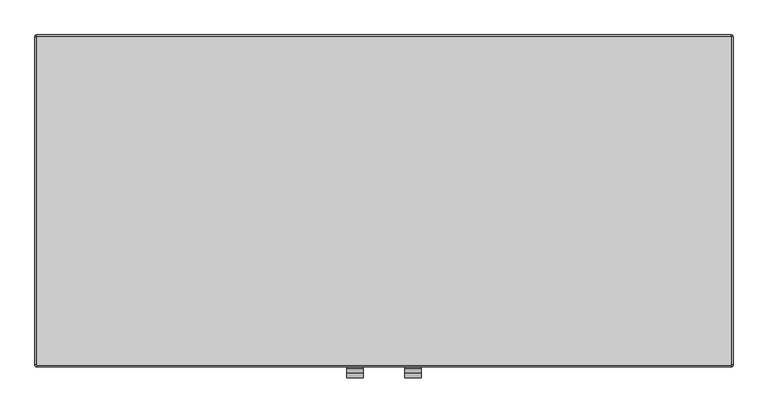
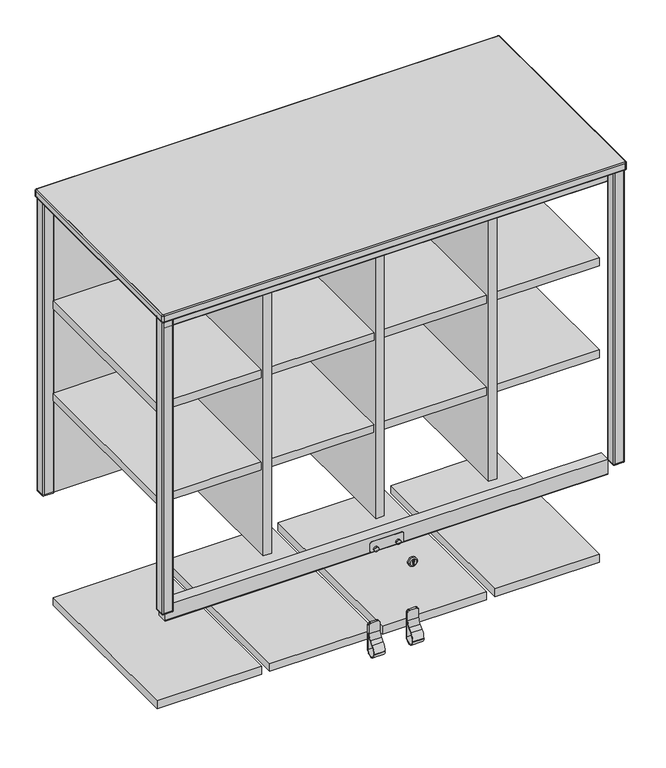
"""IFC4 building model written with IfcOpenShell, lengths in millimetres: furniture geometry, SmithSystem_AM_Storage_Education_Constellate_Stacking_DoubleMidCluster : Upper Cubbies + Lower Cubbies."""

from ifc_helpers import new_model, si_unit, point, frame, frame_2d, origin, place, context, project, spatial, polyline, circle_curve, ellipse_curve, trimmed, segment, composite_curve, outline, extrude, source, transform, mapped, element, save
from ifc_brep_helpers import plane_surface, cylinder_surface, revolved_surface, advanced_brep


def furniture_f3f6e3e6(model_context):
    return source(origin(), model_context, "Body", "SolidModel", [
        extrude(outline(polyline([(-9.525, -187.96), (-249.2375, -187.96), (-249.2375, 226.06), (-9.525, 226.06), (-9.525, -187.96)])), frame((0.0, 0.0, 1240.79), z_axis=(0.0, 0.0, 1.0), x_axis=(1.0, 0.0, 0.0)), (0.0, 0.0, 1.0), 19.05),
        extrude(outline(polyline([(249.2375, -187.96), (9.525, -187.96), (9.525, 226.06), (249.2375, 226.06), (249.2375, -187.96)])), frame((0.0, 0.0, 1240.79), z_axis=(0.0, 0.0, 1.0), x_axis=(1.0, 0.0, 0.0)), (0.0, 0.0, 1.0), 19.05),
        extrude(outline(polyline([(508.0, -187.96), (268.2875, -187.96), (268.2875, 226.06), (508.0, 226.06), (508.0, -187.96)])), frame((0.0, 0.0, 1240.79), z_axis=(0.0, 0.0, 1.0), x_axis=(1.0, 0.0, 0.0)), (0.0, 0.0, 1.0), 19.05),
        extrude(outline(polyline([(-268.2875, -187.96), (-508.0, -187.96), (-508.0, 226.06), (-268.2875, 226.06), (-268.2875, -187.96)])), frame((0.0, 0.0, 1240.79), z_axis=(0.0, 0.0, 1.0), x_axis=(1.0, 0.0, 0.0)), (0.0, 0.0, 1.0), 19.05),
        extrude(outline(composite_curve([segment(trimmed(circle_curve(frame_2d((-218.44, 1466.85)), 2.54), [point((-218.44, 1464.31))], [point((-220.98, 1466.85))], False, "CARTESIAN"), True, "CONTINUOUS"), segment(polyline([(-220.98, 1466.85), (-220.98, 1504.95), (-195.58, 1504.95), (-195.58, 1466.85)]), True, "CONTINUOUS"), segment(trimmed(circle_curve(frame_2d((-198.12, 1466.85)), 2.54), [point((-195.58, 1466.85))], [point((-198.12, 1464.31))], False, "CARTESIAN"), True, "CONTINUOUS"), segment(polyline([(-198.12, 1464.31), (-218.44, 1464.31)]), True, "CONTINUOUS")], self_intersect=False)), frame((-508.0, 0.0, 0.0), z_axis=(1.0, 0.0, 0.0), x_axis=(0.0, 1.0, 0.0)), (0.0, 0.0, 1.0), 1016.0),
        extrude(outline(composite_curve([segment(polyline([(-220.98, 791.21), (-195.58, 791.21), (-195.58, 755.65)]), True, "CONTINUOUS"), segment(trimmed(circle_curve(frame_2d((-198.12, 755.65)), 2.54), [point((-195.58, 755.65))], [point((-198.12, 753.11))], False, "CARTESIAN"), True, "CONTINUOUS"), segment(polyline([(-198.12, 753.11), (-218.44, 753.11)]), True, "CONTINUOUS"), segment(trimmed(circle_curve(frame_2d((-218.44, 755.65)), 2.54), [point((-218.44, 753.11))], [point((-220.98, 755.65))], False, "CARTESIAN"), True, "CONTINUOUS"), segment(polyline([(-220.98, 755.65), (-220.98, 791.21)]), True, "CONTINUOUS")], self_intersect=False)), frame((-508.0, 0.0, 0.0), z_axis=(1.0, 0.0, 0.0), x_axis=(0.0, 1.0, 0.0)), (0.0, 0.0, 1.0), 1016.0),
        extrude(outline(polyline([(-9.525, -187.96), (-249.2375, -187.96), (-249.2375, 226.06), (-9.525, 226.06), (-9.525, -187.96)])), frame((0.0, 0.0, 521.1191), z_axis=(0.0, 0.0, 1.0), x_axis=(1.0, 0.0, 0.0)), (0.0, 0.0, 1.0), 19.05),
        extrude(outline(polyline([(249.2375, -187.96), (9.525, -187.96), (9.525, 226.06), (249.2375, 226.06), (249.2375, -187.96)])), frame((0.0, 0.0, 521.1191), z_axis=(0.0, 0.0, 1.0), x_axis=(1.0, 0.0, 0.0)), (0.0, 0.0, 1.0), 19.05),
        extrude(outline(polyline([(508.0, -187.96), (268.2875, -187.96), (268.2875, 226.06), (508.0, 226.06), (508.0, -187.96)])), frame((0.0, 0.0, 521.1191), z_axis=(0.0, 0.0, 1.0), x_axis=(1.0, 0.0, 0.0)), (0.0, 0.0, 1.0), 19.05),
        extrude(outline(polyline([(-268.2875, -187.96), (-508.0, -187.96), (-508.0, 226.06), (-268.2875, 226.06), (-268.2875, -187.96)])), frame((0.0, 0.0, 521.1191), z_axis=(0.0, 0.0, 1.0), x_axis=(1.0, 0.0, 0.0)), (0.0, 0.0, 1.0), 19.05),
        extrude(outline(polyline([(-268.2875, -195.58), (-268.2875, 226.06), (-249.2375, 226.06), (-249.2375, -195.58), (-268.2875, -195.58)])), frame((0.0, 0.0, 812.8), z_axis=(0.0, 0.0, 1.0), x_axis=(1.0, 0.0, 0.0)), (0.0, 0.0, 1.0), 692.15),
        extrude(outline(polyline([(-9.525, -195.58), (-9.525, 226.06), (9.525, 226.06), (9.525, -195.58), (-9.525, -195.58)])), frame((0.0, 0.0, 812.8), z_axis=(0.0, 0.0, 1.0), x_axis=(1.0, 0.0, 0.0)), (0.0, 0.0, 1.0), 692.15),
        extrude(outline(polyline([(249.2375, -195.58), (249.2375, 226.06), (268.2875, 226.06), (268.2875, -195.58), (249.2375, -195.58)])), frame((0.0, 0.0, 812.8), z_axis=(0.0, 0.0, 1.0), x_axis=(1.0, 0.0, 0.0)), (0.0, 0.0, 1.0), 692.15),
        extrude(outline(polyline([(-9.525, -187.96), (-249.2375, -187.96), (-249.2375, 226.06), (-9.525, 226.06), (-9.525, -187.96)])), frame((0.0, 0.0, 1017.27), z_axis=(0.0, 0.0, 1.0), x_axis=(1.0, 0.0, 0.0)), (0.0, 0.0, 1.0), 19.05),
        extrude(outline(polyline([(249.2375, -187.96), (9.525, -187.96), (9.525, 226.06), (249.2375, 226.06), (249.2375, -187.96)])), frame((0.0, 0.0, 1017.27), z_axis=(0.0, 0.0, 1.0), x_axis=(1.0, 0.0, 0.0)), (0.0, 0.0, 1.0), 19.05),
        extrude(outline(polyline([(508.0, -187.96), (268.2875, -187.96), (268.2875, 226.06), (508.0, 226.06), (508.0, -187.96)])), frame((0.0, 0.0, 1017.27), z_axis=(0.0, 0.0, 1.0), x_axis=(1.0, 0.0, 0.0)), (0.0, 0.0, 1.0), 19.05),
        extrude(outline(polyline([(-268.2875, -187.96), (-508.0, -187.96), (-508.0, 226.06), (-268.2875, 226.06), (-268.2875, -187.96)])), frame((0.0, 0.0, 1017.27), z_axis=(0.0, 0.0, 1.0), x_axis=(1.0, 0.0, 0.0)), (0.0, 0.0, 1.0), 19.05),
        extrude(outline(polyline([(-505.46, 228.6), (-505.46, 247.65), (505.46, 247.65), (505.46, 228.6), (-505.46, 228.6)])), frame((0.0, 0.0, 793.75), z_axis=(0.0, 0.0, 1.0), x_axis=(1.0, 0.0, 0.0)), (0.0, 0.0, 1.0), 711.2),
        extrude(outline(composite_curve([segment(polyline([(-528.32, -223.52), (-508.0, -223.52)]), True, "CONTINUOUS"), segment(trimmed(circle_curve(frame_2d((-508.0, -226.06)), 2.54), [point((-508.0, -223.52))], [point((-505.46, -226.06))], False, "CARTESIAN"), True, "CONTINUOUS"), segment(polyline([(-505.46, -226.06), (-505.46, -246.38)]), True, "CONTINUOUS"), segment(trimmed(circle_curve(frame_2d((-508.0, -246.38)), 2.54), [point((-505.46, -246.38))], [point((-508.0, -248.92))], False, "CARTESIAN"), True, "CONTINUOUS"), segment(polyline([(-508.0, -248.92), (-528.32, -248.92)]), True, "CONTINUOUS"), segment(trimmed(circle_curve(frame_2d((-528.32, -246.38)), 2.54), [point((-528.32, -248.92))], [point((-530.86, -246.38))], False, "CARTESIAN"), True, "CONTINUOUS"), segment(polyline([(-530.86, -246.38), (-530.86, -226.06)]), True, "CONTINUOUS"), segment(trimmed(circle_curve(frame_2d((-528.32, -226.06)), 2.54), [point((-530.86, -226.06))], [point((-528.32, -223.52))], False, "CARTESIAN"), True, "CONTINUOUS")], self_intersect=False)), frame((0.0, 0.0, 796.29), z_axis=(0.0, 0.0, 1.0), x_axis=(1.0, 0.0, 0.0)), (0.0, 0.0, 1.0), 708.66),
        extrude(outline(composite_curve([segment(polyline([(530.86, 248.92), (530.86, 228.6)]), True, "CONTINUOUS"), segment(trimmed(circle_curve(frame_2d((528.32, 228.6)), 2.54), [point((530.86, 228.6))], [point((528.32, 226.06))], False, "CARTESIAN"), True, "CONTINUOUS"), segment(polyline([(528.32, 226.06), (508.0, 226.06)]), True, "CONTINUOUS"), segment(trimmed(circle_curve(frame_2d((508.0, 228.6)), 2.54), [point((508.0, 226.06))], [point((505.46, 228.6))], False, "CARTESIAN"), True, "CONTINUOUS"), segment(polyline([(505.46, 228.6), (505.46, 248.92)]), True, "CONTINUOUS"), segment(trimmed(circle_curve(frame_2d((508.0, 248.92)), 2.54), [point((505.46, 248.92))], [point((508.0, 251.46))], False, "CARTESIAN"), True, "CONTINUOUS"), segment(polyline([(508.0, 251.46), (528.32, 251.46)]), True, "CONTINUOUS"), segment(trimmed(circle_curve(frame_2d((528.32, 248.92)), 2.54), [point((528.32, 251.46))], [point((530.86, 248.92))], False, "CARTESIAN"), True, "CONTINUOUS")], self_intersect=False)), frame((0.0, 0.0, 796.29), z_axis=(0.0, 0.0, 1.0), x_axis=(1.0, 0.0, 0.0)), (0.0, 0.0, 1.0), 708.66),
        extrude(outline(composite_curve([segment(trimmed(circle_curve(frame_2d((528.32, -226.06)), 2.54), [point((528.32, -223.52))], [point((530.86, -226.06))], False, "CARTESIAN"), True, "CONTINUOUS"), segment(polyline([(530.86, -226.06), (530.86, -246.38)]), True, "CONTINUOUS"), segment(trimmed(circle_curve(frame_2d((528.32, -246.38)), 2.54), [point((530.86, -246.38))], [point((528.32, -248.92))], False, "CARTESIAN"), True, "CONTINUOUS"), segment(polyline([(528.32, -248.92), (508.0, -248.92)]), True, "CONTINUOUS"), segment(trimmed(circle_curve(frame_2d((508.0, -246.38)), 2.54), [point((508.0, -248.92))], [point((505.46, -246.38))], False, "CARTESIAN"), True, "CONTINUOUS"), segment(polyline([(505.46, -246.38), (505.46, -226.06)]), True, "CONTINUOUS"), segment(trimmed(circle_curve(frame_2d((508.0, -226.06)), 2.54), [point((505.46, -226.06))], [point((508.0, -223.52))], False, "CARTESIAN"), True, "CONTINUOUS"), segment(polyline([(508.0, -223.52), (528.32, -223.52)]), True, "CONTINUOUS")], self_intersect=False)), frame((0.0, 0.0, 796.29), z_axis=(0.0, 0.0, 1.0), x_axis=(1.0, 0.0, 0.0)), (0.0, 0.0, 1.0), 708.66),
        extrude(outline(composite_curve([segment(trimmed(circle_curve(frame_2d((-528.32, 248.92)), 2.54), [point((-530.86, 248.92))], [point((-528.32, 251.46))], False, "CARTESIAN"), True, "CONTINUOUS"), segment(polyline([(-528.32, 251.46), (-508.0, 251.46)]), True, "CONTINUOUS"), segment(trimmed(circle_curve(frame_2d((-508.0, 248.92)), 2.54), [point((-508.0, 251.46))], [point((-505.46, 248.92))], False, "CARTESIAN"), True, "CONTINUOUS"), segment(polyline([(-505.46, 248.92), (-505.46, 228.6)]), True, "CONTINUOUS"), segment(trimmed(circle_curve(frame_2d((-508.0, 228.6)), 2.54), [point((-505.46, 228.6))], [point((-508.0, 226.06))], False, "CARTESIAN"), True, "CONTINUOUS"), segment(polyline([(-508.0, 226.06), (-528.32, 226.06)]), True, "CONTINUOUS"), segment(trimmed(circle_curve(frame_2d((-528.32, 228.6)), 2.54), [point((-528.32, 226.06))], [point((-530.86, 228.6))], False, "CARTESIAN"), True, "CONTINUOUS"), segment(polyline([(-530.86, 228.6), (-530.86, 248.92)]), True, "CONTINUOUS")], self_intersect=False)), frame((0.0, 0.0, 796.29), z_axis=(0.0, 0.0, 1.0), x_axis=(1.0, 0.0, 0.0)), (0.0, 0.0, 1.0), 708.66),
        extrude(outline(composite_curve([segment(polyline([(-528.32, -223.52), (-508.0, -223.52)]), True, "CONTINUOUS"), segment(trimmed(circle_curve(frame_2d((-508.0, -226.06)), 2.54), [point((-508.0, -223.52))], [point((-505.46, -226.06))], False, "CARTESIAN"), True, "CONTINUOUS"), segment(polyline([(-505.46, -226.06), (-505.46, -246.38)]), True, "CONTINUOUS"), segment(trimmed(circle_curve(frame_2d((-508.0, -246.38)), 2.54), [point((-505.46, -246.38))], [point((-508.0, -248.92))], False, "CARTESIAN"), True, "CONTINUOUS"), segment(polyline([(-508.0, -248.92), (-528.32, -248.92)]), True, "CONTINUOUS"), segment(trimmed(circle_curve(frame_2d((-528.32, -246.38)), 2.54), [point((-528.32, -248.92))], [point((-530.86, -246.38))], False, "CARTESIAN"), True, "CONTINUOUS"), segment(polyline([(-530.86, -246.38), (-530.86, -226.06)]), True, "CONTINUOUS"), segment(trimmed(circle_curve(frame_2d((-528.32, -226.06)), 2.54), [point((-530.86, -226.06))], [point((-528.32, -223.52))], False, "CARTESIAN"), True, "CONTINUOUS")], self_intersect=False)), frame((0.0, 0.0, 793.75), z_axis=(0.0, 0.0, 1.0), x_axis=(1.0, 0.0, 0.0)), (0.0, 0.0, 1.0), 2.54),
        extrude(outline(composite_curve([segment(polyline([(530.86, 248.92), (530.86, 228.6)]), True, "CONTINUOUS"), segment(trimmed(circle_curve(frame_2d((528.32, 228.6)), 2.54), [point((530.86, 228.6))], [point((528.32, 226.06))], False, "CARTESIAN"), True, "CONTINUOUS"), segment(polyline([(528.32, 226.06), (508.0, 226.06)]), True, "CONTINUOUS"), segment(trimmed(circle_curve(frame_2d((508.0, 228.6)), 2.54), [point((508.0, 226.06))], [point((505.46, 228.6))], False, "CARTESIAN"), True, "CONTINUOUS"), segment(polyline([(505.46, 228.6), (505.46, 248.92)]), True, "CONTINUOUS"), segment(trimmed(circle_curve(frame_2d((508.0, 248.92)), 2.54), [point((505.46, 248.92))], [point((508.0, 251.46))], False, "CARTESIAN"), True, "CONTINUOUS"), segment(polyline([(508.0, 251.46), (528.32, 251.46)]), True, "CONTINUOUS"), segment(trimmed(circle_curve(frame_2d((528.32, 248.92)), 2.54), [point((528.32, 251.46))], [point((530.86, 248.92))], False, "CARTESIAN"), True, "CONTINUOUS")], self_intersect=False)), frame((0.0, 0.0, 793.75), z_axis=(0.0, 0.0, 1.0), x_axis=(1.0, 0.0, 0.0)), (0.0, 0.0, 1.0), 2.54),
        extrude(outline(composite_curve([segment(trimmed(circle_curve(frame_2d((528.32, -226.06)), 2.54), [point((528.32, -223.52))], [point((530.86, -226.06))], False, "CARTESIAN"), True, "CONTINUOUS"), segment(polyline([(530.86, -226.06), (530.86, -246.38)]), True, "CONTINUOUS"), segment(trimmed(circle_curve(frame_2d((528.32, -246.38)), 2.54), [point((530.86, -246.38))], [point((528.32, -248.92))], False, "CARTESIAN"), True, "CONTINUOUS"), segment(polyline([(528.32, -248.92), (508.0, -248.92)]), True, "CONTINUOUS"), segment(trimmed(circle_curve(frame_2d((508.0, -246.38)), 2.54), [point((508.0, -248.92))], [point((505.46, -246.38))], False, "CARTESIAN"), True, "CONTINUOUS"), segment(polyline([(505.46, -246.38), (505.46, -226.06)]), True, "CONTINUOUS"), segment(trimmed(circle_curve(frame_2d((508.0, -226.06)), 2.54), [point((505.46, -226.06))], [point((508.0, -223.52))], False, "CARTESIAN"), True, "CONTINUOUS"), segment(polyline([(508.0, -223.52), (528.32, -223.52)]), True, "CONTINUOUS")], self_intersect=False)), frame((0.0, 0.0, 793.75), z_axis=(0.0, 0.0, 1.0), x_axis=(1.0, 0.0, 0.0)), (0.0, 0.0, 1.0), 2.54),
        extrude(outline(composite_curve([segment(trimmed(circle_curve(frame_2d((-528.32, 248.92)), 2.54), [point((-530.86, 248.92))], [point((-528.32, 251.46))], False, "CARTESIAN"), True, "CONTINUOUS"), segment(polyline([(-528.32, 251.46), (-508.0, 251.46)]), True, "CONTINUOUS"), segment(trimmed(circle_curve(frame_2d((-508.0, 248.92)), 2.54), [point((-508.0, 251.46))], [point((-505.46, 248.92))], False, "CARTESIAN"), True, "CONTINUOUS"), segment(polyline([(-505.46, 248.92), (-505.46, 228.6)]), True, "CONTINUOUS"), segment(trimmed(circle_curve(frame_2d((-508.0, 228.6)), 2.54), [point((-505.46, 228.6))], [point((-508.0, 226.06))], False, "CARTESIAN"), True, "CONTINUOUS"), segment(polyline([(-508.0, 226.06), (-528.32, 226.06)]), True, "CONTINUOUS"), segment(trimmed(circle_curve(frame_2d((-528.32, 228.6)), 2.54), [point((-528.32, 226.06))], [point((-530.86, 228.6))], False, "CARTESIAN"), True, "CONTINUOUS"), segment(polyline([(-530.86, 228.6), (-530.86, 248.92)]), True, "CONTINUOUS")], self_intersect=False)), frame((0.0, 0.0, 793.75), z_axis=(0.0, 0.0, 1.0), x_axis=(1.0, 0.0, 0.0)), (0.0, 0.0, 1.0), 2.54),
        extrude(outline(composite_curve([segment(polyline([(-530.86, -250.952), (-530.86, 250.952)]), True, "CONTINUOUS"), segment(trimmed(circle_curve(frame_2d((-530.352, 250.952)), 0.508), [point((-530.86, 250.952))], [point((-530.352, 251.46))], False, "CARTESIAN"), True, "CONTINUOUS"), segment(polyline([(-530.352, 251.46), (530.352, 251.46)]), True, "CONTINUOUS"), segment(trimmed(circle_curve(frame_2d((530.352, 250.952)), 0.508), [point((530.352, 251.46))], [point((530.86, 250.952))], False, "CARTESIAN"), True, "CONTINUOUS"), segment(polyline([(530.86, 250.952), (530.86, -250.952)]), True, "CONTINUOUS"), segment(trimmed(circle_curve(frame_2d((530.352, -250.952)), 0.508), [point((530.86, -250.952))], [point((530.352, -251.46))], False, "CARTESIAN"), True, "CONTINUOUS"), segment(polyline([(530.352, -251.46), (-530.352, -251.46)]), True, "CONTINUOUS"), segment(trimmed(circle_curve(frame_2d((-530.352, -250.952)), 0.508), [point((-530.352, -251.46))], [point((-530.86, -250.952))], False, "CARTESIAN"), True, "CONTINUOUS")], self_intersect=False)), frame((0.0, 0.0, 1504.95), z_axis=(0.0, 0.0, 1.0), x_axis=(1.0, 0.0, 0.0)), (0.0, 0.0, 1.0), 19.05),
        advanced_brep(
        [(-530.352, -251.46, 1524.0), (-530.86, -250.952, 1524.0), (-533.4, -250.952, 1521.46), (-530.352, -254.0, 1521.46), (-530.352, -251.46, 1504.95), (-530.86, -250.952, 1504.95), (-530.352, -254.0, 1507.49), (-533.4, -250.952, 1507.49), (530.352, -254.0, 1521.46), (530.352, -251.46, 1524.0), (530.352, -251.46, 1504.95), (530.352, -254.0, 1507.49), (530.86, -250.952, 1524.0), (533.4, -250.952, 1521.46), (530.86, -250.952, 1504.95), (533.4, -250.952, 1507.49), (533.4, 250.952, 1521.46), (530.86, 250.952, 1524.0), (530.86, 250.952, 1504.95), (533.4, 250.952, 1507.49), (530.352, 251.46, 1524.0), (530.352, 254.0, 1521.46), (530.352, 251.46, 1504.95), (530.352, 254.0, 1507.49), (-530.352, 254.0, 1521.46), (-530.352, 251.46, 1524.0), (-530.352, 251.46, 1504.95), (-530.352, 254.0, 1507.49), (-530.86, 250.952, 1524.0), (-533.4, 250.952, 1521.46), (-530.86, 250.952, 1504.95), (-533.4, 250.952, 1507.49)],
        [
            (0, 1, circle_curve(frame((-530.352, -250.952, 1524.0), z_axis=(0.0, 0.0, -1.0), x_axis=(-1.0, 0.0, 0.0)), 0.508)),
            (1, 2, circle_curve(frame((-530.86, -250.952, 1521.46), z_axis=(0.0, -1.0, 0.0), x_axis=(1.0, 0.0, 0.0)), 2.54)),
            (2, 3, circle_curve(frame((-530.352, -250.952, 1521.46), z_axis=(0.0, 0.0, 1.0), x_axis=(-1.0, 0.0, 0.0)), 3.048)),
            (3, 0, circle_curve(frame((-530.352, -251.46, 1521.46), z_axis=(-1.0, 0.0, 0.0), x_axis=(0.0, 1.0, 0.0)), 2.54)),
            (4, 5, circle_curve(frame((-530.352, -250.952, 1504.95), z_axis=(0.0, 0.0, -1.0), x_axis=(-1.0, 0.0, 0.0)), 0.508)),
            (5, 1),
            (0, 4),
            (6, 7, circle_curve(frame((-530.352, -250.952, 1507.49), z_axis=(0.0, 0.0, -1.0), x_axis=(-1.0, 0.0, 0.0)), 3.048)),
            (7, 5, circle_curve(frame((-530.86, -250.952, 1507.49), z_axis=(0.0, -1.0, 0.0), x_axis=(1.0, 0.0, 0.0)), 2.54)),
            (4, 6, circle_curve(frame((-530.352, -251.46, 1507.49), z_axis=(-1.0, 0.0, 0.0), x_axis=(0.0, 1.0, 0.0)), 2.54)),
            (2, 7),
            (6, 3),
            (3, 8),
            (8, 9, circle_curve(frame((530.352, -251.46, 1521.46), z_axis=(-1.0, 0.0, 0.0), x_axis=(0.0, 1.0, 0.0)), 2.54)),
            (9, 0),
            (9, 10),
            (10, 4),
            (10, 11, circle_curve(frame((530.352, -251.46, 1507.49), z_axis=(-1.0, 0.0, 0.0), x_axis=(0.0, 1.0, 0.0)), 2.54)),
            (11, 6),
            (11, 8),
            (12, 9, circle_curve(frame((530.352, -250.952, 1524.0), z_axis=(0.0, 0.0, -1.0), x_axis=(0.0, -1.0, 0.0)), 0.508)),
            (8, 13, circle_curve(frame((530.352, -250.952, 1521.46), z_axis=(0.0, 0.0, 1.0), x_axis=(0.0, -1.0, 0.0)), 3.048)),
            (13, 12, circle_curve(frame((530.86, -250.952, 1521.46), z_axis=(0.0, -1.0, 0.0), x_axis=(-1.0, 0.0, 0.0)), 2.54)),
            (14, 10, circle_curve(frame((530.352, -250.952, 1504.95), z_axis=(0.0, 0.0, -1.0), x_axis=(0.0, -1.0, 0.0)), 0.508)),
            (12, 14),
            (15, 11, circle_curve(frame((530.352, -250.952, 1507.49), z_axis=(0.0, 0.0, -1.0), x_axis=(0.0, -1.0, 0.0)), 3.048)),
            (14, 15, circle_curve(frame((530.86, -250.952, 1507.49), z_axis=(0.0, -1.0, 0.0), x_axis=(-1.0, 0.0, 0.0)), 2.54)),
            (15, 13),
            (13, 16),
            (16, 17, circle_curve(frame((530.86, 250.952, 1521.46), z_axis=(0.0, -1.0, 0.0), x_axis=(-1.0, 0.0, 0.0)), 2.54)),
            (17, 12),
            (17, 18),
            (18, 14),
            (18, 19, circle_curve(frame((530.86, 250.952, 1507.49), z_axis=(0.0, -1.0, 0.0), x_axis=(-1.0, 0.0, 0.0)), 2.54)),
            (19, 15),
            (19, 16),
            (20, 17, circle_curve(frame((530.352, 250.952, 1524.0), z_axis=(0.0, 0.0, -1.0), x_axis=(1.0, 0.0, 0.0)), 0.508)),
            (16, 21, circle_curve(frame((530.352, 250.952, 1521.46), z_axis=(0.0, 0.0, 1.0), x_axis=(1.0, 0.0, 0.0)), 3.048)),
            (21, 20, circle_curve(frame((530.352, 251.46, 1521.46), z_axis=(1.0, 0.0, 0.0), x_axis=(0.0, -1.0, 0.0)), 2.54)),
            (22, 18, circle_curve(frame((530.352, 250.952, 1504.95), z_axis=(0.0, 0.0, -1.0), x_axis=(1.0, 0.0, 0.0)), 0.508)),
            (20, 22),
            (23, 19, circle_curve(frame((530.352, 250.952, 1507.49), z_axis=(0.0, 0.0, -1.0), x_axis=(1.0, 0.0, 0.0)), 3.048)),
            (22, 23, circle_curve(frame((530.352, 251.46, 1507.49), z_axis=(1.0, 0.0, 0.0), x_axis=(0.0, -1.0, 0.0)), 2.54)),
            (23, 21),
            (21, 24),
            (24, 25, circle_curve(frame((-530.352, 251.46, 1521.46), z_axis=(1.0, 0.0, 0.0), x_axis=(0.0, -1.0, 0.0)), 2.54)),
            (25, 20),
            (25, 26),
            (26, 22),
            (26, 27, circle_curve(frame((-530.352, 251.46, 1507.49), z_axis=(1.0, 0.0, 0.0), x_axis=(0.0, -1.0, 0.0)), 2.54)),
            (27, 23),
            (27, 24),
            (28, 25, circle_curve(frame((-530.352, 250.952, 1524.0), z_axis=(0.0, 0.0, -1.0), x_axis=(0.0, 1.0, 0.0)), 0.508)),
            (24, 29, circle_curve(frame((-530.352, 250.952, 1521.46), z_axis=(0.0, 0.0, 1.0), x_axis=(0.0, 1.0, 0.0)), 3.048)),
            (29, 28, circle_curve(frame((-530.86, 250.952, 1521.46), z_axis=(0.0, 1.0, 0.0), x_axis=(1.0, 0.0, 0.0)), 2.54)),
            (30, 26, circle_curve(frame((-530.352, 250.952, 1504.95), z_axis=(0.0, 0.0, -1.0), x_axis=(0.0, 1.0, 0.0)), 0.508)),
            (28, 30),
            (31, 27, circle_curve(frame((-530.352, 250.952, 1507.49), z_axis=(0.0, 0.0, -1.0), x_axis=(0.0, 1.0, 0.0)), 3.048)),
            (30, 31, circle_curve(frame((-530.86, 250.952, 1507.49), z_axis=(0.0, 1.0, 0.0), x_axis=(1.0, 0.0, 0.0)), 2.54)),
            (31, 29),
            (29, 2),
            (1, 28),
            (5, 30),
            (7, 31),
        ],
        [
            revolved_surface(trimmed(ellipse_curve(frame((-530.86, -250.952, 1521.46), z_axis=(0.0, 1.0, 0.0), x_axis=(1.0, 0.0, 0.0)), 2.54, 2.54), [point((-533.4, -250.952, 1521.46))], [point((-530.86, -250.952, 1524.0))], True, "CARTESIAN"), (-530.352, -250.952, 0.0), (0.0, 0.0, 1.0)),
            revolved_surface(polyline([(-530.86, -250.952, 1524.0), (-530.86, -250.952, 1504.95)]), (-530.352, -250.952, 0.0), (0.0, 0.0, 1.0)),
            revolved_surface(trimmed(ellipse_curve(frame((-530.86, -250.952, 1507.49), z_axis=(0.0, 1.0, 0.0), x_axis=(1.0, 0.0, 0.0)), 2.54, 2.54), [point((-530.86, -250.952, 1504.95))], [point((-533.4, -250.952, 1507.49))], True, "CARTESIAN"), (-530.352, -250.952, 0.0), (0.0, 0.0, 1.0)),
            cylinder_surface(frame((-530.352, -250.952, 0.0), z_axis=(0.0, 0.0, 1.0), x_axis=(-1.0, 0.0, 0.0)), 3.048),
            cylinder_surface(frame((-530.352, -251.46, 1521.46), z_axis=(-1.0, 0.0, 0.0), x_axis=(0.0, 1.0, 0.0)), 2.54),
            plane_surface(frame((-530.352, -251.46, 1524.0), z_axis=(0.0, 1.0, 0.0), x_axis=(1.0, 0.0, 0.0))),
            cylinder_surface(frame((-530.352, -251.46, 1507.49), z_axis=(-1.0, 0.0, 0.0), x_axis=(0.0, 1.0, 0.0)), 2.54),
            plane_surface(frame((-530.352, -254.0, 1507.49), z_axis=(0.0, -1.0, 0.0), x_axis=(1.0, 0.0, 0.0))),
            revolved_surface(trimmed(ellipse_curve(frame((530.352, -251.46, 1521.46), z_axis=(-1.0, 0.0, 0.0), x_axis=(0.0, 1.0, 0.0)), 2.54, 2.54), [point((530.352, -254.0, 1521.46))], [point((530.352, -251.46, 1524.0))], True, "CARTESIAN"), (530.352, -250.952, 0.0), (0.0, 0.0, 1.0)),
            revolved_surface(polyline([(530.352, -251.46, 1524.0), (530.352, -251.46, 1504.95)]), (530.352, -250.952, 0.0), (0.0, 0.0, 1.0)),
            revolved_surface(trimmed(ellipse_curve(frame((530.352, -251.46, 1507.49), z_axis=(-1.0, 0.0, 0.0), x_axis=(0.0, 1.0, 0.0)), 2.54, 2.54), [point((530.352, -251.46, 1504.95))], [point((530.352, -254.0, 1507.49))], True, "CARTESIAN"), (530.352, -250.952, 0.0), (0.0, 0.0, 1.0)),
            cylinder_surface(frame((530.352, -250.952, 0.0), z_axis=(0.0, 0.0, 1.0), x_axis=(0.0, -1.0, 0.0)), 3.048),
            cylinder_surface(frame((530.86, -250.952, 1521.46), z_axis=(0.0, -1.0, 0.0), x_axis=(-1.0, 0.0, 0.0)), 2.54),
            plane_surface(frame((530.86, -250.952, 1524.0), z_axis=(-1.0, 0.0, 0.0), x_axis=(0.0, 1.0, 0.0))),
            cylinder_surface(frame((530.86, -250.952, 1507.49), z_axis=(0.0, -1.0, 0.0), x_axis=(-1.0, 0.0, 0.0)), 2.54),
            plane_surface(frame((533.4, -250.952, 1507.49), z_axis=(1.0, 0.0, 0.0), x_axis=(0.0, 1.0, 0.0))),
            revolved_surface(trimmed(ellipse_curve(frame((530.86, 250.952, 1521.46), z_axis=(0.0, -1.0, 0.0), x_axis=(-1.0, 0.0, 0.0)), 2.54, 2.54), [point((533.4, 250.952, 1521.46))], [point((530.86, 250.952, 1524.0))], True, "CARTESIAN"), (530.352, 250.952, 0.0), (0.0, 0.0, 1.0)),
            revolved_surface(polyline([(530.86, 250.952, 1524.0), (530.86, 250.952, 1504.95)]), (530.352, 250.952, 0.0), (0.0, 0.0, 1.0)),
            revolved_surface(trimmed(ellipse_curve(frame((530.86, 250.952, 1507.49), z_axis=(0.0, -1.0, 0.0), x_axis=(-1.0, 0.0, 0.0)), 2.54, 2.54), [point((530.86, 250.952, 1504.95))], [point((533.4, 250.952, 1507.49))], True, "CARTESIAN"), (530.352, 250.952, 0.0), (0.0, 0.0, 1.0)),
            cylinder_surface(frame((530.352, 250.952, 0.0), z_axis=(0.0, 0.0, 1.0), x_axis=(1.0, 0.0, 0.0)), 3.048),
            cylinder_surface(frame((530.352, 251.46, 1521.46), z_axis=(1.0, 0.0, 0.0), x_axis=(0.0, -1.0, 0.0)), 2.54),
            plane_surface(frame((530.352, 251.46, 1524.0), z_axis=(0.0, -1.0, 0.0), x_axis=(-1.0, 0.0, 0.0))),
            cylinder_surface(frame((530.352, 251.46, 1507.49), z_axis=(1.0, 0.0, 0.0), x_axis=(0.0, -1.0, 0.0)), 2.54),
            plane_surface(frame((530.352, 254.0, 1507.49), z_axis=(0.0, 1.0, 0.0), x_axis=(-1.0, 0.0, 0.0))),
            revolved_surface(trimmed(ellipse_curve(frame((-530.352, 251.46, 1521.46), z_axis=(1.0, 0.0, 0.0), x_axis=(0.0, -1.0, 0.0)), 2.54, 2.54), [point((-530.352, 254.0, 1521.46))], [point((-530.352, 251.46, 1524.0))], True, "CARTESIAN"), (-530.352, 250.952, 0.0), (0.0, 0.0, 1.0)),
            revolved_surface(polyline([(-530.352, 251.46, 1524.0), (-530.352, 251.46, 1504.95)]), (-530.352, 250.952, 0.0), (0.0, 0.0, 1.0)),
            revolved_surface(trimmed(ellipse_curve(frame((-530.352, 251.46, 1507.49), z_axis=(1.0, 0.0, 0.0), x_axis=(0.0, -1.0, 0.0)), 2.54, 2.54), [point((-530.352, 251.46, 1504.95))], [point((-530.352, 254.0, 1507.49))], True, "CARTESIAN"), (-530.352, 250.952, 0.0), (0.0, 0.0, 1.0)),
            cylinder_surface(frame((-530.352, 250.952, 0.0), z_axis=(0.0, 0.0, 1.0), x_axis=(0.0, 1.0, 0.0)), 3.048),
            cylinder_surface(frame((-530.86, 250.952, 1521.46), z_axis=(0.0, 1.0, 0.0), x_axis=(1.0, 0.0, 0.0)), 2.54),
            plane_surface(frame((-530.86, 250.952, 1524.0), z_axis=(1.0, 0.0, 0.0), x_axis=(0.0, -1.0, 0.0))),
            cylinder_surface(frame((-530.86, 250.952, 1507.49), z_axis=(0.0, 1.0, 0.0), x_axis=(1.0, 0.0, 0.0)), 2.54),
            plane_surface(frame((-533.4, 250.952, 1507.49), z_axis=(-1.0, 0.0, 0.0), x_axis=(0.0, -1.0, 0.0))),
        ],
        [
            (0, [[1, 2, 3, 4]]),
            (1, [[5, 6, -1, 7]]),
            (2, [[8, 9, -5, 10]]),
            (3, [[-3, 11, -8, 12]]),
            (4, [[-4, 13, 14, 15]]),
            (5, [[-7, -15, 16, 17]]),
            (6, [[-10, -17, 18, 19]]),
            (7, [[-12, -19, 20, -13]]),
            (8, [[21, -14, 22, 23]]),
            (9, [[24, -16, -21, 25]]),
            (10, [[26, -18, -24, 27]]),
            (11, [[-22, -20, -26, 28]]),
            (12, [[-23, 29, 30, 31]]),
            (13, [[-25, -31, 32, 33]]),
            (14, [[-27, -33, 34, 35]]),
            (15, [[-28, -35, 36, -29]]),
            (16, [[37, -30, 38, 39]]),
            (17, [[40, -32, -37, 41]]),
            (18, [[42, -34, -40, 43]]),
            (19, [[-38, -36, -42, 44]]),
            (20, [[-39, 45, 46, 47]]),
            (21, [[-41, -47, 48, 49]]),
            (22, [[-43, -49, 50, 51]]),
            (23, [[-44, -51, 52, -45]]),
            (24, [[53, -46, 54, 55]]),
            (25, [[56, -48, -53, 57]]),
            (26, [[58, -50, -56, 59]]),
            (27, [[-54, -52, -58, 60]]),
            (28, [[-55, 61, -2, 62]]),
            (29, [[-57, -62, -6, 63]]),
            (30, [[-59, -63, -9, 64]]),
            (31, [[-60, -64, -11, -61]]),
        ],
    ),
        extrude(outline(composite_curve([segment(trimmed(circle_curve(frame_2d((762.0, -25.4)), 5.08), [point((762.0, -20.32))], [point((762.0, -30.48))], False, "CARTESIAN"), True, "CONTINUOUS"), segment(trimmed(circle_curve(frame_2d((762.0, -25.4)), 5.08), [point((762.0, -30.48))], [point((762.0, -20.32))], False, "CARTESIAN"), True, "CONTINUOUS")], self_intersect=False)), frame((0.0, -226.06, 0.0), z_axis=(0.0, 1.0, 0.0), x_axis=(0.0, 0.0, 1.0)), (0.0, 0.0, 1.0), 5.08),
        extrude(outline(composite_curve([segment(trimmed(circle_curve(frame_2d((762.0, 25.4)), 5.08), [point((762.0, 30.48))], [point((762.0, 20.32))], False, "CARTESIAN"), True, "CONTINUOUS"), segment(trimmed(circle_curve(frame_2d((762.0, 25.4)), 5.08), [point((762.0, 20.32))], [point((762.0, 30.48))], False, "CARTESIAN"), True, "CONTINUOUS")], self_intersect=False)), frame((0.0, -226.06, 0.0), z_axis=(0.0, 1.0, 0.0), x_axis=(0.0, 0.0, 1.0)), (0.0, 0.0, 1.0), 5.08),
        extrude(outline(composite_curve([segment(polyline([(781.05, 34.29), (781.05, -34.29)]), True, "CONTINUOUS"), segment(trimmed(circle_curve(frame_2d((777.24, -34.29)), 3.81), [point((781.05, -34.29))], [point((777.24, -38.1))], False, "CARTESIAN"), True, "CONTINUOUS"), segment(polyline([(777.24, -38.1), (759.46, -38.1)]), True, "CONTINUOUS"), segment(trimmed(circle_curve(frame_2d((759.46, -34.29)), 3.81), [point((759.46, -38.1))], [point((755.65, -34.29))], False, "CARTESIAN"), True, "CONTINUOUS"), segment(polyline([(755.65, -34.29), (755.65, 34.29)]), True, "CONTINUOUS"), segment(trimmed(circle_curve(frame_2d((759.46, 34.29)), 3.81), [point((755.65, 34.29))], [point((759.46, 38.1))], False, "CARTESIAN"), True, "CONTINUOUS"), segment(polyline([(759.46, 38.1), (777.24, 38.1)]), True, "CONTINUOUS"), segment(trimmed(circle_curve(frame_2d((777.24, 34.29)), 3.81), [point((777.24, 38.1))], [point((781.05, 34.29))], False, "CARTESIAN"), True, "CONTINUOUS")], self_intersect=False)), frame((0.0, -222.25, 0.0), z_axis=(0.0, 1.0, 0.0), x_axis=(0.0, 0.0, 1.0)), (0.0, 0.0, 1.0), 1.27),
        extrude(outline(composite_curve([segment(trimmed(circle_curve(frame_2d((721.36, 44.45)), 7.62), [point((728.98, 44.45))], [point((713.74, 44.45))], False, "CARTESIAN"), True, "CONTINUOUS"), segment(trimmed(circle_curve(frame_2d((721.36, 44.45)), 7.62), [point((713.74, 44.45))], [point((728.98, 44.45))], False, "CARTESIAN"), True, "CONTINUOUS")], self_intersect=False), holes=[composite_curve([segment(trimmed(circle_curve(frame_2d((723.8193444, 44.45)), 2.54), [point((721.36, 43.815))], [point((721.36, 45.085))], True, "CARTESIAN"), True, "CONTINUOUS"), segment(polyline([(721.36, 45.085), (716.1993444, 45.085), (716.1993444, 43.815), (721.36, 43.815)]), True, "CONTINUOUS")], self_intersect=False)]), frame((0.0, -251.46, 0.0), z_axis=(0.0, 1.0, 0.0), x_axis=(0.0, 0.0, 1.0)), (0.0, 0.0, 1.0), 2.54),
        advanced_brep(
        [(44.45, -245.11, 721.36), (54.61, -245.11, 721.36), (34.29, -245.11, 721.36), (36.83, -248.92, 721.36), (52.07, -248.92, 721.36), (44.45, -248.92, 721.36), (36.83, -251.46, 721.36), (52.07, -251.46, 721.36), (34.29, -248.92, 721.36), (54.61, -248.92, 721.36)],
        [
            (0, 1),
            (1, 2, circle_curve(frame((44.45, -245.11, 721.36), z_axis=(0.0, 1.0, 0.0), x_axis=(1.0, 0.0, 0.0)), 10.16)),
            (2, 0),
            (2, 1, circle_curve(frame((44.45, -245.11, 721.36), z_axis=(0.0, 1.0, 0.0), x_axis=(1.0, 0.0, 0.0)), 10.16)),
            (3, 4, circle_curve(frame((44.45, -248.92, 721.36), z_axis=(0.0, -1.0, 0.0), x_axis=(1.0, 0.0, 0.0)), 7.62)),
            (4, 5),
            (5, 3),
            (4, 3, circle_curve(frame((44.45, -248.92, 721.36), z_axis=(0.0, -1.0, 0.0), x_axis=(1.0, 0.0, 0.0)), 7.62)),
            (6, 7, circle_curve(frame((44.45, -251.46, 721.36), z_axis=(0.0, -1.0, 0.0), x_axis=(1.0, 0.0, 0.0)), 7.62)),
            (7, 4),
            (3, 6),
            (7, 6, circle_curve(frame((44.45, -251.46, 721.36), z_axis=(0.0, -1.0, 0.0), x_axis=(1.0, 0.0, 0.0)), 7.62)),
            (8, 9, circle_curve(frame((44.45, -248.92, 721.36), z_axis=(0.0, -1.0, 0.0), x_axis=(1.0, 0.0, 0.0)), 10.16)),
            (9, 7, circle_curve(frame((52.07, -248.92, 721.36), z_axis=(0.0, 0.0, -1.0), x_axis=(0.0, 1.0, 0.0)), 2.54)),
            (6, 8, circle_curve(frame((36.83, -248.92, 721.36), z_axis=(0.0, 0.0, -1.0), x_axis=(0.0, 1.0, 0.0)), 2.54)),
            (9, 8, circle_curve(frame((44.45, -248.92, 721.36), z_axis=(0.0, -1.0, 0.0), x_axis=(1.0, 0.0, 0.0)), 10.16)),
            (1, 9),
            (8, 2),
        ],
        [
            plane_surface(frame((44.45, -245.11, 721.36), z_axis=(0.0, 1.0, 0.0), x_axis=(1.0, 0.0, 0.0))),
            plane_surface(frame((44.45, -248.92, 721.36), z_axis=(0.0, -1.0, 0.0), x_axis=(1.0, 0.0, 0.0))),
            revolved_surface(polyline([(52.07, -248.92, 721.36), (52.07, -251.46, 721.36)]), (44.45, -242.6013541, 721.36), (0.0, 1.0, 0.0)),
            revolved_surface(trimmed(ellipse_curve(frame((52.07, -248.92, 721.36), z_axis=(0.0, 0.0, 1.0), x_axis=(0.0, 1.0, 0.0)), 2.54, 2.54), [point((52.07, -251.46, 721.36))], [point((54.61, -248.92, 721.36))], True, "CARTESIAN"), (44.45, -242.6013541, 721.36), (0.0, 1.0, 0.0)),
            cylinder_surface(frame((44.45, -242.6013541, 721.36), z_axis=(0.0, 1.0, 0.0), x_axis=(1.0, 0.0, 0.0)), 10.16),
        ],
        [
            (0, [[1, 2, 3]]),
            (0, [[-3, 4, -1]]),
            (1, [[5, 6, 7]]),
            (1, [[8, -7, -6]]),
            (2, [[9, 10, -5, 11]]),
            (2, [[12, -11, -8, -10]]),
            (3, [[13, 14, -9, 15]]),
            (3, [[16, -15, -12, -14]]),
            (4, [[-2, 17, -13, 18]]),
            (4, [[-4, -18, -16, -17]]),
        ],
    ),
        advanced_brep(
        [(-57.15, -247.65, 543.56), (-31.75, -247.65, 543.56), (-31.75, -247.65, 583.2007684), (-57.15, -247.65, 583.2007684), (-31.75, -245.11, 543.56), (-57.15, -245.11, 543.56), (-57.15, -245.11, 601.98), (-52.07, -245.11, 607.06), (-36.83, -245.11, 607.06), (-31.75, -245.11, 601.98), (-57.15, -267.97, 544.4689755), (-31.75, -267.97, 544.4689755), (-31.75, -267.97, 543.56), (-57.15, -267.97, 543.56), (-31.75, -270.51, 544.4689755), (-57.15, -270.51, 544.4689755), (-57.15, -270.51, 543.56), (-31.75, -270.51, 543.56), (-31.75, -247.65, 601.98), (-31.75, -250.19, 601.98), (-31.75, -250.19, 583.2007684), (-31.75, -255.7696158, 569.7303842), (-31.75, -263.0705122, 562.4294878), (-31.75, -261.274461, 560.6334365), (-31.75, -253.9735646, 567.934333), (-57.15, -250.19, 601.98), (-57.15, -247.65, 601.98), (-57.15, -263.0705122, 562.4294878), (-57.15, -255.7696158, 569.7303842), (-57.15, -250.19, 583.2007684), (-57.15, -253.9735646, 567.934333), (-57.15, -261.274461, 560.6334365), (-36.83, -250.19, 607.06), (-52.07, -250.19, 607.06), (-36.83, -247.65, 607.06), (-52.07, -247.65, 607.06)],
        [
            (0, 1),
            (1, 2),
            (2, 3),
            (3, 0),
            (4, 5),
            (5, 6),
            (6, 7, circle_curve(frame((-52.07, -245.11, 601.98), z_axis=(0.0, 1.0, 0.0), x_axis=(1.0, 0.0, 0.0)), 5.08)),
            (7, 8),
            (8, 9, circle_curve(frame((-36.83, -245.11, 601.98), z_axis=(0.0, 1.0, 0.0), x_axis=(1.0, 0.0, 0.0)), 5.08)),
            (9, 4),
            (10, 11),
            (11, 12),
            (12, 13),
            (13, 10),
            (14, 15),
            (15, 16),
            (16, 17),
            (17, 14),
            (0, 13, circle_curve(frame((-57.15, -257.81, 543.56), z_axis=(-1.0, 0.0, 0.0), x_axis=(0.0, -1.0, 0.0)), 10.16)),
            (12, 1, circle_curve(frame((-31.75, -257.81, 543.56), z_axis=(1.0, 0.0, 0.0), x_axis=(0.0, -1.0, 0.0)), 10.16)),
            (4, 17, circle_curve(frame((-31.75, -257.81, 543.56), z_axis=(-1.0, 0.0, 0.0), x_axis=(0.0, -1.0, 0.0)), 12.7)),
            (16, 5, circle_curve(frame((-57.15, -257.81, 543.56), z_axis=(1.0, 0.0, 0.0), x_axis=(0.0, -1.0, 0.0)), 12.7)),
            (9, 18),
            (18, 19),
            (19, 20),
            (20, 21, circle_curve(frame((-31.75, -269.24, 583.2007684), z_axis=(-1.0, 0.0, 0.0), x_axis=(0.0, 1.0, 0.0)), 19.05)),
            (21, 22),
            (22, 14, circle_curve(frame((-31.75, -245.11, 544.4689755), z_axis=(1.0, 0.0, 0.0), x_axis=(0.0, -0.7071067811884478, 0.7071067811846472)), 25.4)),
            (11, 23, circle_curve(frame((-31.75, -245.11, 544.4689755), z_axis=(-1.0, 0.0, 0.0), x_axis=(0.0, -0.7071067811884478, 0.7071067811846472)), 22.86)),
            (23, 24),
            (24, 2, circle_curve(frame((-31.75, -269.24, 583.2007684), z_axis=(1.0, 0.0, 0.0), x_axis=(0.0, 1.0, 0.0)), 21.59)),
            (25, 26),
            (26, 6),
            (15, 27, circle_curve(frame((-57.15, -245.11, 544.4689755), z_axis=(-1.0, 0.0, 0.0), x_axis=(0.0, -0.7071067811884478, 0.7071067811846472)), 25.4)),
            (27, 28),
            (28, 29, circle_curve(frame((-57.15, -269.24, 583.2007684), z_axis=(1.0, 0.0, 0.0), x_axis=(0.0, 1.0, 0.0)), 19.05)),
            (29, 25),
            (3, 30, circle_curve(frame((-57.15, -269.24, 583.2007684), z_axis=(-1.0, 0.0, 0.0), x_axis=(0.0, 1.0, 0.0)), 21.59)),
            (30, 31),
            (31, 10, circle_curve(frame((-57.15, -245.11, 544.4689755), z_axis=(1.0, 0.0, 0.0), x_axis=(0.0, -0.7071067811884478, 0.7071067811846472)), 22.86)),
            (29, 20),
            (19, 32, circle_curve(frame((-36.83, -250.19, 601.98), z_axis=(0.0, -1.0, 0.0), x_axis=(1.0, 0.0, 0.0)), 5.08)),
            (32, 33),
            (33, 25, circle_curve(frame((-52.07, -250.19, 601.98), z_axis=(0.0, -1.0, 0.0), x_axis=(1.0, 0.0, 0.0)), 5.08)),
            (24, 30),
            (28, 21),
            (23, 31),
            (27, 22),
            (18, 34, circle_curve(frame((-36.83, -247.65, 601.98), z_axis=(0.0, -1.0, 0.0), x_axis=(1.0, 0.0, 0.0)), 5.08)),
            (34, 32),
            (34, 8),
            (7, 35),
            (35, 33),
            (35, 26, circle_curve(frame((-52.07, -247.65, 601.98), z_axis=(0.0, -1.0, 0.0), x_axis=(1.0, 0.0, 0.0)), 5.08)),
        ],
        [
            plane_surface(frame((-31.75, -247.65, 543.56), z_axis=(0.0, -1.0, 0.0), x_axis=(0.0, 0.0, 1.0))),
            plane_surface(frame((-57.15, -245.11, 543.56), z_axis=(0.0, 1.0, 0.0), x_axis=(0.0, 0.0, 1.0))),
            plane_surface(frame((-31.75, -267.97, 544.4689755), z_axis=(0.0, 1.0, 0.0), x_axis=(0.0, 0.0, -1.0))),
            plane_surface(frame((-57.15, -270.51, 544.4689755), z_axis=(0.0, -1.0, 0.0), x_axis=(0.0, 0.0, -1.0))),
            revolved_surface(polyline([(-31.75, -267.97, 543.56), (-57.15, -267.97, 543.56)]), (0.0, -257.81, 543.56), (1.0, 0.0, 0.0)),
            cylinder_surface(frame((0.0, -257.81, 543.56), z_axis=(1.0, 0.0, 0.0), x_axis=(0.0, -1.0, 0.0)), 12.7),
            plane_surface(frame((-31.75, -250.19, 594.36), z_axis=(1.0, 0.0, 0.0), x_axis=(0.0, 0.0, -1.0))),
            plane_surface(frame((-57.15, -247.65, 594.36), z_axis=(-1.0, 0.0, 0.0), x_axis=(0.0, 0.0, -1.0))),
            plane_surface(frame((-57.15, -250.19, 594.36), z_axis=(0.0, -1.0, 0.0), x_axis=(0.0, 0.0, -1.0))),
            cylinder_surface(frame((0.0, -269.24, 583.2007684), z_axis=(-1.0, 0.0, 0.0), x_axis=(0.0, 1.0, 0.0)), 21.59),
            revolved_surface(polyline([(-57.15, -250.19, 583.2007684), (-31.75, -250.19, 583.2007684)]), (0.0, -269.24, 583.2007684), (-1.0, 0.0, 0.0)),
            plane_surface(frame((-31.75, -253.9735646, 567.934333), z_axis=(0.0, 0.7071067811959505, -0.7071067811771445), x_axis=(0.0, -0.7071067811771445, -0.7071067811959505))),
            plane_surface(frame((-57.15, -255.7696158, 569.7303842), z_axis=(0.0, -0.7071067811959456, 0.7071067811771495), x_axis=(0.0, -0.7071067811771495, -0.7071067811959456))),
            revolved_surface(polyline([(-31.75, -261.27446101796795, 560.6334365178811), (-57.15, -261.27446101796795, 560.6334365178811)]), (0.0, -245.11, 544.4689755), (1.0, 0.0, 0.0)),
            cylinder_surface(frame((0.0, -245.11, 544.4689755), z_axis=(1.0, 0.0, 0.0), x_axis=(0.0, -0.7071067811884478, 0.7071067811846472)), 25.4),
            cylinder_surface(frame((-36.83, -245.11, 601.98), z_axis=(0.0, -1.0, 0.0), x_axis=(1.0, 0.0, 0.0)), 5.08),
            plane_surface(frame((-36.83, -250.19, 607.06), z_axis=(1.083577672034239e-12, 0.0, 1.0), x_axis=(0.0, 1.0, 0.0))),
            cylinder_surface(frame((-52.07, -245.11, 601.98), z_axis=(0.0, -1.0, 0.0), x_axis=(1.0, 0.0, 0.0)), 5.08),
        ],
        [
            (0, [[1, 2, 3, 4]]),
            (1, [[5, 6, 7, 8, 9, 10]]),
            (2, [[11, 12, 13, 14]]),
            (3, [[15, 16, 17, 18]]),
            (4, [[-1, 19, -13, 20]]),
            (5, [[-5, 21, -17, 22]]),
            (6, [[-10, 23, 24, 25, 26, 27, 28, -18, -21], [-2, -20, -12, 29, 30, 31]]),
            (7, [[32, 33, -6, -22, -16, 34, 35, 36, 37], [-4, 38, 39, 40, -14, -19]]),
            (8, [[41, -25, 42, 43, 44, -37]]),
            (9, [[-31, 45, -38, -3]]),
            (10, [[-26, -41, -36, 46]]),
            (11, [[-30, 47, -39, -45]]),
            (12, [[-27, -46, -35, 48]]),
            (13, [[-11, -40, -47, -29]]),
            (14, [[-15, -28, -48, -34]]),
            (15, [[-42, -24, 49, 50]]),
            (16, [[-43, -50, 51, -8, 52, 53]]),
            (17, [[-44, -53, 54, -32]]),
            (15, [[-9, -51, -49, -23]]),
            (17, [[-7, -33, -54, -52]]),
        ],
    ),
        advanced_brep(
        [(57.15, -247.65, 583.2007684), (31.75, -247.65, 583.2007684), (31.75, -247.65, 543.56), (57.15, -247.65, 543.56), (31.75, -245.11, 601.98), (36.83, -245.11, 607.06), (52.07, -245.11, 607.06), (57.15, -245.11, 601.98), (57.15, -245.11, 543.56), (31.75, -245.11, 543.56), (31.75, -267.97, 544.4689755), (57.15, -267.97, 544.4689755), (57.15, -267.97, 543.56), (31.75, -267.97, 543.56), (57.15, -270.51, 544.4689755), (31.75, -270.51, 544.4689755), (31.75, -270.51, 543.56), (57.15, -270.51, 543.56), (31.75, -250.19, 583.2007684), (57.15, -250.19, 583.2007684), (57.15, -250.19, 601.98), (52.07, -250.19, 607.06), (36.83, -250.19, 607.06), (31.75, -250.19, 601.98), (57.15, -247.65, 601.98), (57.15, -255.7696158, 569.7303842), (57.15, -263.0705122, 562.4294878), (57.15, -261.274461, 560.6334365), (57.15, -253.9735646, 567.934333), (31.75, -247.65, 601.98), (31.75, -263.0705122, 562.4294878), (31.75, -255.7696158, 569.7303842), (31.75, -253.9735646, 567.934333), (31.75, -261.274461, 560.6334365), (52.07, -247.65, 607.06), (36.83, -247.65, 607.06)],
        [
            (0, 1),
            (1, 2),
            (2, 3),
            (3, 0),
            (4, 5, circle_curve(frame((36.83, -245.11, 601.98), z_axis=(0.0, 1.0, 0.0), x_axis=(1.0, 0.0, 0.0)), 5.08)),
            (5, 6),
            (6, 7, circle_curve(frame((52.07, -245.11, 601.98), z_axis=(0.0, 1.0, 0.0), x_axis=(1.0, 0.0, 0.0)), 5.08)),
            (7, 8),
            (8, 9),
            (9, 4),
            (10, 11),
            (11, 12),
            (12, 13),
            (13, 10),
            (14, 15),
            (15, 16),
            (16, 17),
            (17, 14),
            (2, 13, circle_curve(frame((31.75, -257.81, 543.56), z_axis=(-1.0, 0.0, 0.0), x_axis=(0.0, -1.0, 0.0)), 10.16)),
            (12, 3, circle_curve(frame((57.15, -257.81, 543.56), z_axis=(1.0, 0.0, 0.0), x_axis=(0.0, -1.0, 0.0)), 10.16)),
            (8, 17, circle_curve(frame((57.15, -257.81, 543.56), z_axis=(-1.0, 0.0, 0.0), x_axis=(0.0, -1.0, 0.0)), 12.7)),
            (16, 9, circle_curve(frame((31.75, -257.81, 543.56), z_axis=(1.0, 0.0, 0.0), x_axis=(0.0, -1.0, 0.0)), 12.7)),
            (18, 19),
            (19, 20),
            (20, 21, circle_curve(frame((52.07, -250.19, 601.98), z_axis=(0.0, -1.0, 0.0), x_axis=(1.0, 0.0, 0.0)), 5.08)),
            (21, 22),
            (22, 23, circle_curve(frame((36.83, -250.19, 601.98), z_axis=(0.0, -1.0, 0.0), x_axis=(1.0, 0.0, 0.0)), 5.08)),
            (23, 18),
            (7, 24),
            (24, 20),
            (19, 25, circle_curve(frame((57.15, -269.24, 583.2007684), z_axis=(-1.0, 0.0, 0.0), x_axis=(0.0, 1.0, 0.0)), 19.05)),
            (25, 26),
            (26, 14, circle_curve(frame((57.15, -245.11, 544.4689755), z_axis=(1.0, 0.0, 0.0), x_axis=(0.0, -0.7071067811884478, 0.7071067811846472)), 25.4)),
            (11, 27, circle_curve(frame((57.15, -245.11, 544.4689755), z_axis=(-1.0, 0.0, 0.0), x_axis=(0.0, -0.7071067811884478, 0.7071067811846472)), 22.86)),
            (27, 28),
            (28, 0, circle_curve(frame((57.15, -269.24, 583.2007684), z_axis=(1.0, 0.0, 0.0), x_axis=(0.0, 1.0, 0.0)), 21.59)),
            (23, 29),
            (29, 4),
            (15, 30, circle_curve(frame((31.75, -245.11, 544.4689755), z_axis=(-1.0, 0.0, 0.0), x_axis=(0.0, -0.7071067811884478, 0.7071067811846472)), 25.4)),
            (30, 31),
            (31, 18, circle_curve(frame((31.75, -269.24, 583.2007684), z_axis=(1.0, 0.0, 0.0), x_axis=(0.0, 1.0, 0.0)), 19.05)),
            (1, 32, circle_curve(frame((31.75, -269.24, 583.2007684), z_axis=(-1.0, 0.0, 0.0), x_axis=(0.0, 1.0, 0.0)), 21.59)),
            (32, 33),
            (33, 10, circle_curve(frame((31.75, -245.11, 544.4689755), z_axis=(1.0, 0.0, 0.0), x_axis=(0.0, -0.7071067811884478, 0.7071067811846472)), 22.86)),
            (28, 32),
            (31, 25),
            (27, 33),
            (30, 26),
            (21, 34),
            (34, 6),
            (5, 35),
            (35, 22),
            (35, 29, circle_curve(frame((36.83, -247.65, 601.98), z_axis=(0.0, -1.0, 0.0), x_axis=(1.0, 0.0, 0.0)), 5.08)),
            (24, 34, circle_curve(frame((52.07, -247.65, 601.98), z_axis=(0.0, -1.0, 0.0), x_axis=(1.0, 0.0, 0.0)), 5.08)),
        ],
        [
            plane_surface(frame((-31.75, -247.65, 543.56), z_axis=(0.0, -1.0, 0.0), x_axis=(0.0, 0.0, 1.0))),
            plane_surface(frame((-57.15, -245.11, 543.56), z_axis=(0.0, 1.0, 0.0), x_axis=(0.0, 0.0, 1.0))),
            plane_surface(frame((57.15, -267.97, 544.4689755), z_axis=(0.0, 1.0, 0.0), x_axis=(0.0, 0.0, -1.0))),
            plane_surface(frame((31.75, -270.51, 544.4689755), z_axis=(0.0, -1.0, 0.0), x_axis=(0.0, 0.0, -1.0))),
            revolved_surface(polyline([(57.15, -267.97, 543.56), (31.75, -267.97, 543.56)]), (0.0, -257.81, 543.56), (1.0, 0.0, 0.0)),
            cylinder_surface(frame((0.0, -257.81, 543.56), z_axis=(1.0, 0.0, 0.0), x_axis=(0.0, -1.0, 0.0)), 12.7),
            plane_surface(frame((-57.15, -250.19, 594.36), z_axis=(0.0, -1.0, 0.0), x_axis=(0.0, 0.0, -1.0))),
            plane_surface(frame((57.15, -250.19, 594.36), z_axis=(1.0, 0.0, 0.0), x_axis=(0.0, 0.0, -1.0))),
            plane_surface(frame((31.75, -247.65, 594.36), z_axis=(-1.0, 0.0, 0.0), x_axis=(0.0, 0.0, -1.0))),
            cylinder_surface(frame((0.0, -269.24, 583.2007684), z_axis=(-1.0, 0.0, 0.0), x_axis=(0.0, 1.0, 0.0)), 21.59),
            revolved_surface(polyline([(31.75, -250.19, 583.2007684), (57.15, -250.19, 583.2007684)]), (0.0, -269.24, 583.2007684), (-1.0, 0.0, 0.0)),
            plane_surface(frame((57.15, -253.9735646, 567.934333), z_axis=(0.0, 0.7071067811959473, -0.7071067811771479), x_axis=(0.0, -0.7071067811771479, -0.7071067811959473))),
            plane_surface(frame((31.75, -255.7696158, 569.7303842), z_axis=(0.0, -0.7071067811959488, 0.7071067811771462), x_axis=(0.0, -0.7071067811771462, -0.7071067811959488))),
            revolved_surface(polyline([(57.15, -261.27446101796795, 560.6334365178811), (31.75, -261.27446101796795, 560.6334365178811)]), (0.0, -245.11, 544.4689755), (1.0, 0.0, 0.0)),
            cylinder_surface(frame((0.0, -245.11, 544.4689755), z_axis=(1.0, 0.0, 0.0), x_axis=(0.0, -0.7071067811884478, 0.7071067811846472)), 25.4),
            plane_surface(frame((52.07, -250.19, 607.06), z_axis=(0.0, 0.0, 1.0), x_axis=(0.0, 1.0, 0.0))),
            cylinder_surface(frame((36.83, -247.65, 601.98), z_axis=(0.0, -1.0, 0.0), x_axis=(1.0, 0.0, 0.0)), 5.08),
            cylinder_surface(frame((52.07, -247.65, 601.98), z_axis=(0.0, -1.0, 0.0), x_axis=(1.0, 0.0, 0.0)), 5.08),
            cylinder_surface(frame((52.07, -245.11, 601.98), z_axis=(0.0, -1.0, 0.0), x_axis=(1.0, 0.0, 0.0)), 5.08),
            cylinder_surface(frame((36.83, -245.11, 601.98), z_axis=(0.0, -1.0, 0.0), x_axis=(1.0, 0.0, 0.0)), 5.08),
        ],
        [
            (0, [[1, 2, 3, 4]]),
            (1, [[5, 6, 7, 8, 9, 10]]),
            (2, [[11, 12, 13, 14]]),
            (3, [[15, 16, 17, 18]]),
            (4, [[-3, 19, -13, 20]]),
            (5, [[-9, 21, -17, 22]]),
            (6, [[23, 24, 25, 26, 27, 28]]),
            (7, [[-8, 29, 30, -24, 31, 32, 33, -18, -21], [-4, -20, -12, 34, 35, 36]]),
            (8, [[37, 38, -10, -22, -16, 39, 40, 41, -28], [-2, 42, 43, 44, -14, -19]]),
            (9, [[-36, 45, -42, -1]]),
            (10, [[-31, -23, -41, 46]]),
            (11, [[-35, 47, -43, -45]]),
            (12, [[-32, -46, -40, 48]]),
            (13, [[-11, -44, -47, -34]]),
            (14, [[-15, -33, -48, -39]]),
            (15, [[-26, 49, 50, -6, 51, 52]]),
            (16, [[-27, -52, 53, -37]]),
            (17, [[-25, -30, 54, -49]]),
            (18, [[-7, -50, -54, -29]]),
            (19, [[-5, -38, -53, -51]]),
        ],
    ),
    ])


if __name__ == "__main__":
    model = new_model("IFC4")
    model_context = context("Model", 3, world=origin())
    ifc_project = project(units=[si_unit("LENGTHUNIT", "METRE", prefix="MILLI")], contexts=[model_context])
    site = spatial("IfcSite", under=ifc_project)
    building = spatial("IfcBuilding", under=site)
    placement = place(None, origin())
    furniture_shape = furniture_f3f6e3e6(model_context)
    element("IfcFurniture", 1, ObjectType="SmithSystem_AM_Storage_Education_Constellate_Stacking_DoubleMidCluster : Upper Cubbies + Lower Cubbies", at=placement, inside=building, context=model_context, shape_type="MappedRepresentation", body=[
        mapped(furniture_shape, transform((0.0, 0.0, 0.0), x_axis=(1.0, 0.0, 0.0), y_axis=(0.0, 1.0, 0.0), z_axis=(0.0, 0.0, 1.0))),
    ])
    save(model, "model.ifc")
